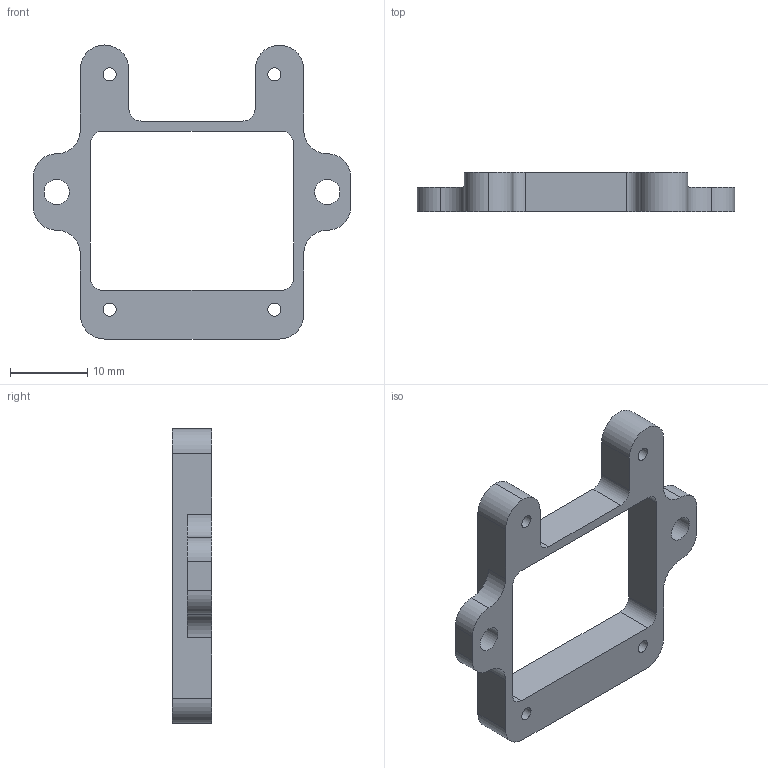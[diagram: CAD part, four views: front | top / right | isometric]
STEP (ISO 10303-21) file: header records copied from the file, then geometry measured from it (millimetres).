
FILE_DESCRIPTION(/* description */ (''),/* implementation_level */ '2;1');
FILE_NAME(/* name */ '3023-0175.stp',/* time_stamp */ '2024-03-06T12:00:20-05:00',/* author */ ('CTHELEN'),/* organization */ (''),/* preprocessor_version */ 'ST-DEVELOPER v19.2',/* originating_system */ 'Autodesk Inventor 2024',/* authorisation */ '');
FILE_SCHEMA (('AUTOMOTIVE_DESIGN { 1 0 10303 214 3 1 1 }'));
Length unit declared in the file: inch
Products named in the file (1): 3023-0175
Bounding box: 41.15 x 5.08 x 38.1 mm (x, y, z)
Volume: 2262.3 mm3; surface area: 2382.7 mm2
Topology: 1 solids, 1 shells, 42 faces, 120 edges, 80 vertices
Faces by surface type: cylinder 26, plane 16
Full cylindrical faces by diameter (mm): 1.702 x4, 3.277 x2
Entity records: 1469 total; most frequent: DIRECTION 258, CARTESIAN_POINT 243, ORIENTED_EDGE 240, EDGE_CURVE 120, AXIS2_PLACEMENT_3D 95, VERTEX_POINT 80, LINE 68, VECTOR 68
